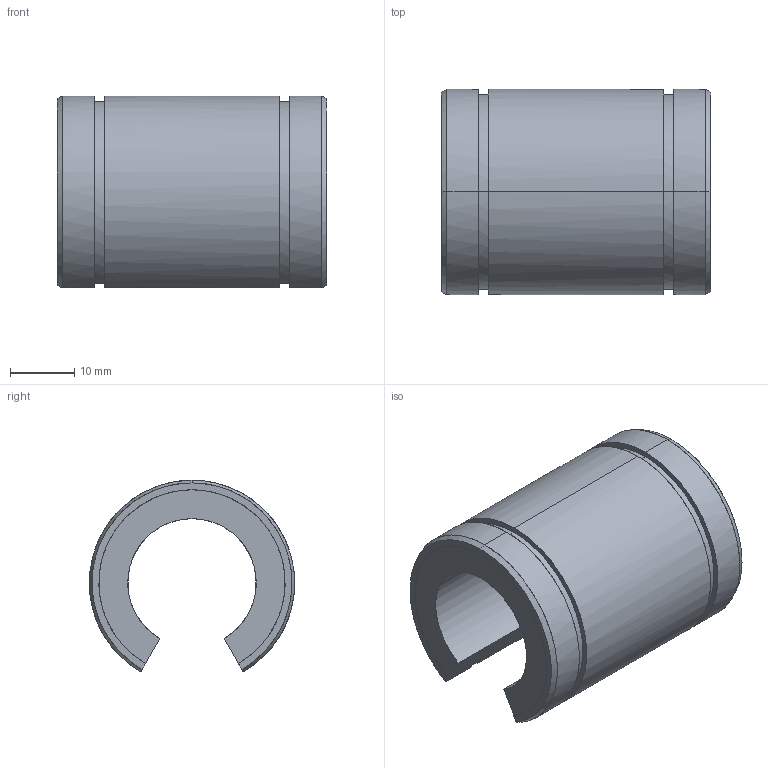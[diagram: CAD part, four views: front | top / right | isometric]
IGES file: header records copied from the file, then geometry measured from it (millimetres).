
Global section: file name: No Iges File Name specified; native system: AutoDesk Inventor R10; preprocessor: AutoDesk Inventor Iges Exporter R10; author: No Author specified; organization: No Organization specified; date: 20101208.113026; units: millimetre
Bounding box: 42 x 31.99 x 29.86 mm (x, y, z)
Surface area: 7242.1 mm2 (no closed solid volume)
Topology: 0 solids, 0 shells, 30 faces, 236 edges, 236 vertices
Faces by surface type: bspline 30
